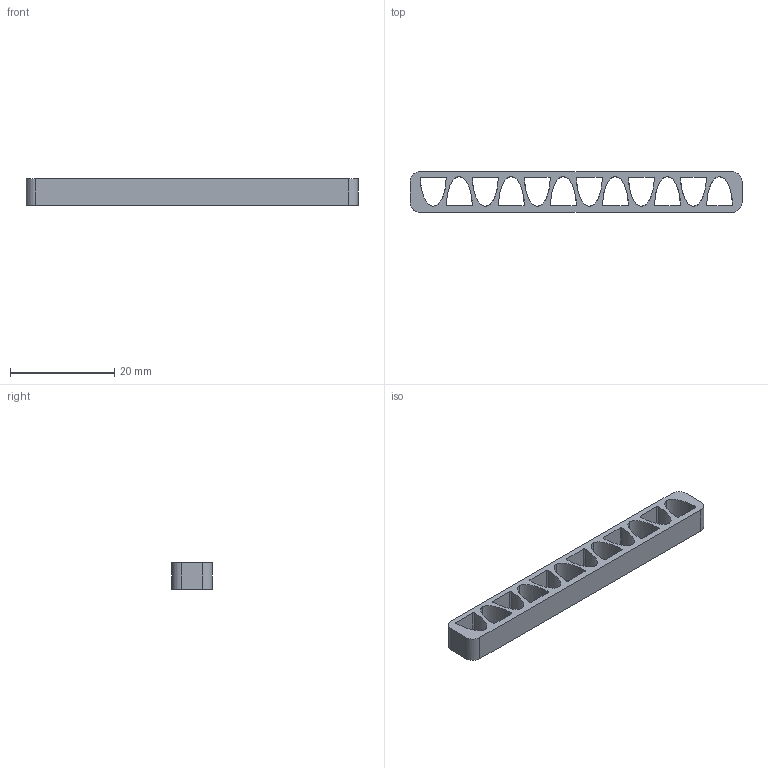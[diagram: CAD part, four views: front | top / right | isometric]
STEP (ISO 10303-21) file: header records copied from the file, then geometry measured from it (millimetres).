
FILE_DESCRIPTION(('CATIA V5 STEP Exchange','CAx-IF Rec.Pracs.--- Model Styling and Organization---1.4--- 2014-01-23'),'2;1');
FILE_NAME('D:\모델\플래그\플래그\일반\01.stp','2026-07-14T16:01:09+00:00',('none'),('none'),'CATIA Version 5-6 Release 2018','CATIA V5 STEP AP214','none');
FILE_SCHEMA(('AUTOMOTIVE_DESIGN { 1 0 10303 214 1 1 1 1 }'));
Length unit declared in the file: millimetre
Products named in the file (1): bulkhead11
Bounding box: 63.78 x 7.8 x 5 mm (x, y, z)
Volume: 1169.4 mm3; surface area: 2240 mm2
Topology: 1 solids, 1 shells, 70 faces, 204 edges, 136 vertices
Faces by surface type: cylinder 28, bspline 24, plane 18
Entity records: 3027 total; most frequent: CARTESIAN_POINT 1364, ORIENTED_EDGE 408, EDGE_CURVE 204, DIRECTION 183, VERTEX_POINT 136, EDGE_LOOP 94, VECTOR 82, LINE 82
